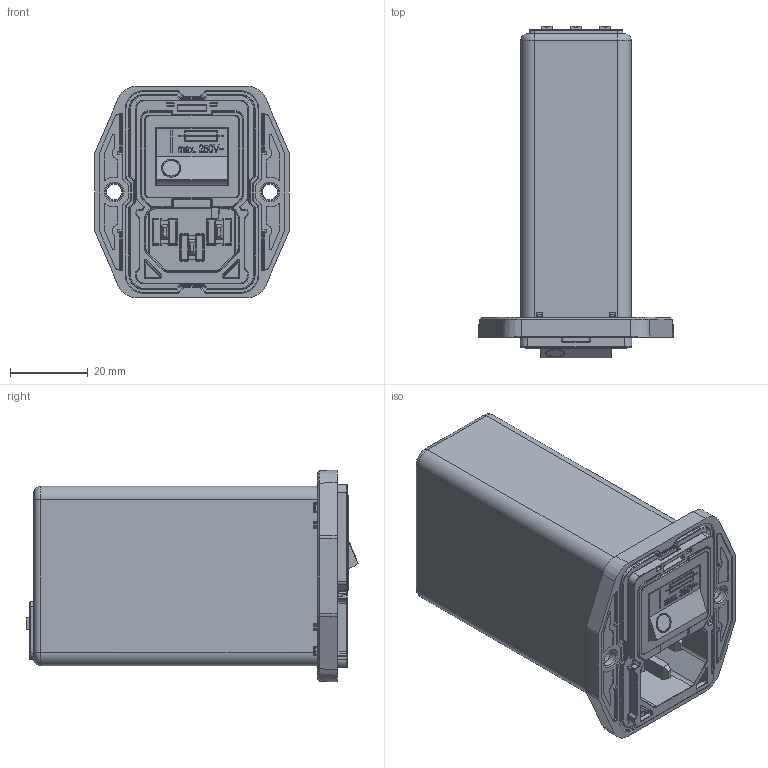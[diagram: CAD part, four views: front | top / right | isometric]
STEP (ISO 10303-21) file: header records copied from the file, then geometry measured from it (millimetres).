
FILE_DESCRIPTION((''),'2;1');
FILE_NAME('H:\02_Projects\A_Others\Z_Support\Luis\Cherry_STP\Step_Files\2 Stage\2_stage_spring_cage_horizontal_back.stp','2012-07-26T14:59:09',('Samuel.Meier'),(''),'Autodesk Inventor 2010','Autodesk Inventor 2010','');
FILE_SCHEMA(('AUTOMOTIVE_DESIGN { 1 2 10303 214 0 1 1 1 }'));
Length unit declared in the file: millimetre
Products named in the file (1): 2_stage_spring_cage_horizontal_back
Bounding box: 50.04 x 85.34 x 54.44 mm (x, y, z)
Surface area: 73186.6 mm2 (no closed solid volume)
Topology: 0 solids, 12 shells, 3689 faces, 9872 edges, 6138 vertices
Faces by surface type: plane 1539, cylinder 1358, bspline 532, torus 109, sphere 91, cone 60
Full cylindrical faces by diameter (mm): 1 x8, 1.1 x10, 1.2 x4, 1.4 x1, 1.5 x3, 1.7 x2, 2.7 x1, 3.6 x2, 4 x2, 4.5 x2, 6.5 x1, 7.2 x2, 8.2 x2
Entity records: 126014 total; most frequent: CARTESIAN_POINT 31368, ORIENTED_EDGE 19448, DIRECTION 18768, EDGE_CURVE 9724, AXIS2_PLACEMENT_3D 6524, VERTEX_POINT 6129, VECTOR 5720, LINE 5720
